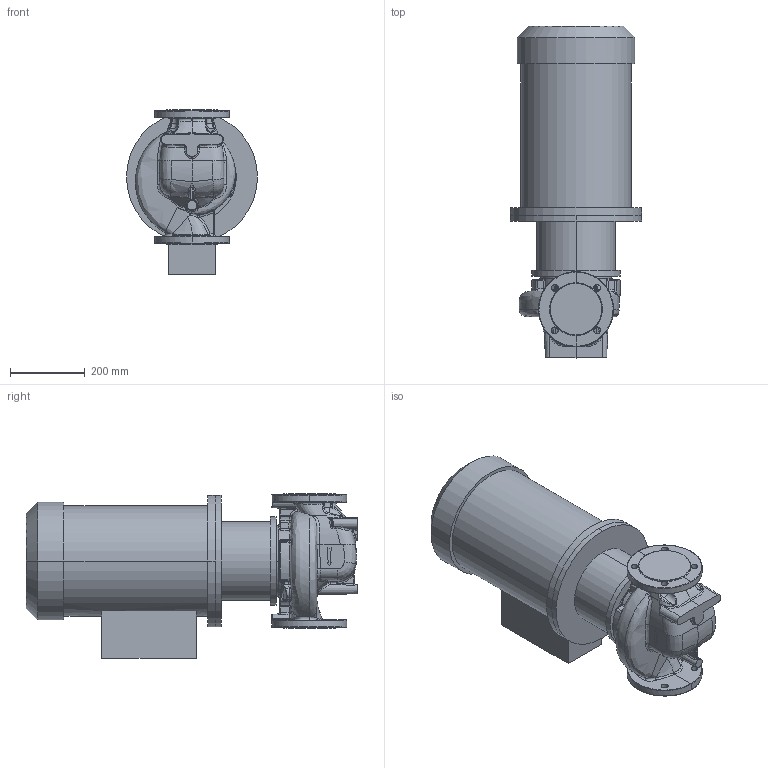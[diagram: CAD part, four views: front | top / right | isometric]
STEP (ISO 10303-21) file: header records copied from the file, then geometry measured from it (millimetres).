
FILE_DESCRIPTION (( 'STEP AP214' ), '1' );
FILE_NAME ('KRL 80-160-2-11.STEP', '2026-04-06T12:34:06', ( '' ), ( '' ), 'SwSTEP 2.0', 'SolidWorks 2016', '' );
FILE_SCHEMA (( 'AUTOMOTIVE_DESIGN' ));
Length unit declared in the file: millimetre
Products named in the file (1): KRL 80-160-2-11
Bounding box: 350 x 886.3 x 440 mm (x, y, z)
Volume: 56120075.6 mm3; surface area: 1619218.9 mm2
Topology: 4 solids, 5 shells, 589 faces, 1479 edges, 888 vertices
Faces by surface type: bspline 319, cylinder 115, plane 96, cone 31, torus 16, sphere 12
Entity records: 59938 total; most frequent: CARTESIAN_POINT 42340, ORIENTED_EDGE 2896, DIRECTION 1510, EDGE_CURVE 1448, VERTEX_POINT 888, B_SPLINE_CURVE_WITH_KNOTS 707, AXIS2_PLACEMENT_3D 641, EDGE_LOOP 624
